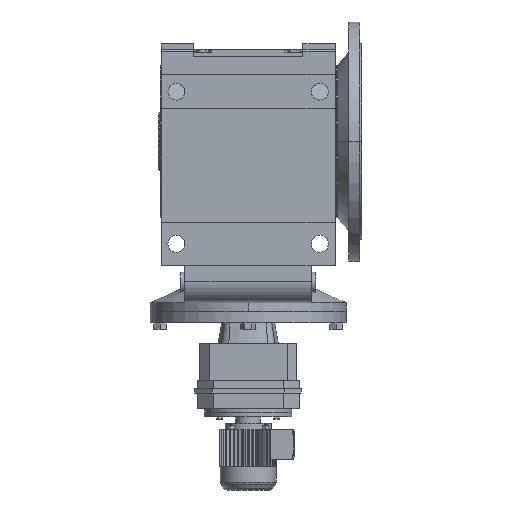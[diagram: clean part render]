
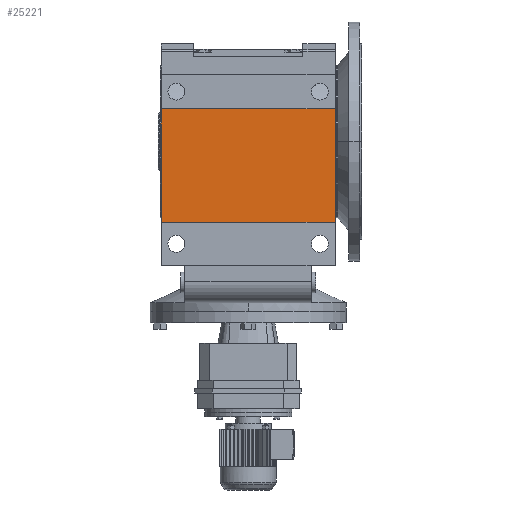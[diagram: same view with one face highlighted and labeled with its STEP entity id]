
A CAD part, front view. The second image highlights one B-rep face of the part: STEP entity #25221.
In plain terms, the highlighted planar face has unit normal (0, -1, 0).
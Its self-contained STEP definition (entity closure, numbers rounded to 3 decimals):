
#10111 = PLANE('',#10112);
#10112 = AXIS2_PLACEMENT_3D('',#10113,#10114,#10115);
#10113 = CARTESIAN_POINT('',(200.,-312.875,176.));
#10114 = DIRECTION('',(1.,0.,0.));
#10115 = DIRECTION('',(0.,0.,-1.));
#11318 = PLANE('',#11319);
#11319 = AXIS2_PLACEMENT_3D('',#11320,#11321,#11322);
#11320 = CARTESIAN_POINT('',(-200.,-312.875,176.));
#11321 = DIRECTION('',(1.,0.,0.));
#11322 = DIRECTION('',(0.,0.,-1.));
#16627 = VERTEX_POINT('',#16628);
#16628 = CARTESIAN_POINT('',(200.,-361.875,75.));
#16642 = PLANE('',#16643);
#16643 = AXIS2_PLACEMENT_3D('',#16644,#16645,#16646);
#16644 = CARTESIAN_POINT('',(200.,-361.875,75.));
#16645 = DIRECTION('',(0.,0.,1.));
#16646 = DIRECTION('',(1.,0.,0.));
#16654 = EDGE_CURVE('',#16627,#16655,#16657,.T.);
#16655 = VERTEX_POINT('',#16656);
#16656 = CARTESIAN_POINT('',(200.,-361.875,-185.));
#16657 = SURFACE_CURVE('',#16658,(#16662,#16669),.PCURVE_S1.);
#16658 = LINE('',#16659,#16660);
#16659 = CARTESIAN_POINT('',(200.,-361.875,75.));
#16660 = VECTOR('',#16661,1.);
#16661 = DIRECTION('',(0.,0.,-1.));
#16662 = PCURVE('',#10111,#16663);
#16663 = DEFINITIONAL_REPRESENTATION('',(#16664),#16668);
#16664 = LINE('',#16665,#16666);
#16665 = CARTESIAN_POINT('',(101.,-49.));
#16666 = VECTOR('',#16667,1.);
#16667 = DIRECTION('',(1.,0.));
#16668 = ( GEOMETRIC_REPRESENTATION_CONTEXT(2) 
PARAMETRIC_REPRESENTATION_CONTEXT() REPRESENTATION_CONTEXT('2D SPACE',''
  ) );
#16669 = PCURVE('',#16670,#16675);
#16670 = PLANE('',#16671);
#16671 = AXIS2_PLACEMENT_3D('',#16672,#16673,#16674);
#16672 = CARTESIAN_POINT('',(-145.5,-361.875,180.));
#16673 = DIRECTION('',(0.,-1.,0.));
#16674 = DIRECTION('',(0.,0.,-1.));
#16675 = DEFINITIONAL_REPRESENTATION('',(#16676),#16680);
#16676 = LINE('',#16677,#16678);
#16677 = CARTESIAN_POINT('',(105.,345.5));
#16678 = VECTOR('',#16679,1.);
#16679 = DIRECTION('',(1.,0.));
#16680 = ( GEOMETRIC_REPRESENTATION_CONTEXT(2) 
PARAMETRIC_REPRESENTATION_CONTEXT() REPRESENTATION_CONTEXT('2D SPACE',''
  ) );
#16698 = PLANE('',#16699);
#16699 = AXIS2_PLACEMENT_3D('',#16700,#16701,#16702);
#16700 = CARTESIAN_POINT('',(200.,-361.875,-185.));
#16701 = DIRECTION('',(0.,0.,-1.));
#16702 = DIRECTION('',(-1.,0.,0.));
#17887 = VERTEX_POINT('',#17888);
#17888 = CARTESIAN_POINT('',(-200.,-361.875,-185.));
#17909 = EDGE_CURVE('',#17910,#17887,#17912,.T.);
#17910 = VERTEX_POINT('',#17911);
#17911 = CARTESIAN_POINT('',(-200.,-361.875,75.));
#17912 = SURFACE_CURVE('',#17913,(#17917,#17924),.PCURVE_S1.);
#17913 = LINE('',#17914,#17915);
#17914 = CARTESIAN_POINT('',(-200.,-361.875,75.));
#17915 = VECTOR('',#17916,1.);
#17916 = DIRECTION('',(0.,0.,-1.));
#17917 = PCURVE('',#11318,#17918);
#17918 = DEFINITIONAL_REPRESENTATION('',(#17919),#17923);
#17919 = LINE('',#17920,#17921);
#17920 = CARTESIAN_POINT('',(101.,-49.));
#17921 = VECTOR('',#17922,1.);
#17922 = DIRECTION('',(1.,0.));
#17923 = ( GEOMETRIC_REPRESENTATION_CONTEXT(2) 
PARAMETRIC_REPRESENTATION_CONTEXT() REPRESENTATION_CONTEXT('2D SPACE',''
  ) );
#17924 = PCURVE('',#16670,#17925);
#17925 = DEFINITIONAL_REPRESENTATION('',(#17926),#17930);
#17926 = LINE('',#17927,#17928);
#17927 = CARTESIAN_POINT('',(105.,-54.5));
#17928 = VECTOR('',#17929,1.);
#17929 = DIRECTION('',(1.,0.));
#17930 = ( GEOMETRIC_REPRESENTATION_CONTEXT(2) 
PARAMETRIC_REPRESENTATION_CONTEXT() REPRESENTATION_CONTEXT('2D SPACE',''
  ) );
#24947 = EDGE_CURVE('',#16627,#17910,#24948,.T.);
#24948 = SURFACE_CURVE('',#24949,(#24953,#24960),.PCURVE_S1.);
#24949 = LINE('',#24950,#24951);
#24950 = CARTESIAN_POINT('',(200.,-361.875,75.));
#24951 = VECTOR('',#24952,1.);
#24952 = DIRECTION('',(-1.,0.,0.));
#24953 = PCURVE('',#16642,#24954);
#24954 = DEFINITIONAL_REPRESENTATION('',(#24955),#24959);
#24955 = LINE('',#24956,#24957);
#24956 = CARTESIAN_POINT('',(0.,0.));
#24957 = VECTOR('',#24958,1.);
#24958 = DIRECTION('',(-1.,0.));
#24959 = ( GEOMETRIC_REPRESENTATION_CONTEXT(2) 
PARAMETRIC_REPRESENTATION_CONTEXT() REPRESENTATION_CONTEXT('2D SPACE',''
  ) );
#24960 = PCURVE('',#16670,#24961);
#24961 = DEFINITIONAL_REPRESENTATION('',(#24962),#24966);
#24962 = LINE('',#24963,#24964);
#24963 = CARTESIAN_POINT('',(105.,345.5));
#24964 = VECTOR('',#24965,1.);
#24965 = DIRECTION('',(0.,-1.));
#24966 = ( GEOMETRIC_REPRESENTATION_CONTEXT(2) 
PARAMETRIC_REPRESENTATION_CONTEXT() REPRESENTATION_CONTEXT('2D SPACE',''
  ) );
#25047 = EDGE_CURVE('',#16655,#17887,#25048,.T.);
#25048 = SURFACE_CURVE('',#25049,(#25053,#25060),.PCURVE_S1.);
#25049 = LINE('',#25050,#25051);
#25050 = CARTESIAN_POINT('',(200.,-361.875,-185.));
#25051 = VECTOR('',#25052,1.);
#25052 = DIRECTION('',(-1.,0.,0.));
#25053 = PCURVE('',#16698,#25054);
#25054 = DEFINITIONAL_REPRESENTATION('',(#25055),#25059);
#25055 = LINE('',#25056,#25057);
#25056 = CARTESIAN_POINT('',(0.,0.));
#25057 = VECTOR('',#25058,1.);
#25058 = DIRECTION('',(1.,0.));
#25059 = ( GEOMETRIC_REPRESENTATION_CONTEXT(2) 
PARAMETRIC_REPRESENTATION_CONTEXT() REPRESENTATION_CONTEXT('2D SPACE',''
  ) );
#25060 = PCURVE('',#16670,#25061);
#25061 = DEFINITIONAL_REPRESENTATION('',(#25062),#25066);
#25062 = LINE('',#25063,#25064);
#25063 = CARTESIAN_POINT('',(365.,345.5));
#25064 = VECTOR('',#25065,1.);
#25065 = DIRECTION('',(0.,-1.));
#25066 = ( GEOMETRIC_REPRESENTATION_CONTEXT(2) 
PARAMETRIC_REPRESENTATION_CONTEXT() REPRESENTATION_CONTEXT('2D SPACE',''
  ) );
#25221 = ADVANCED_FACE('',(#25222),#16670,.T.);
#25222 = FACE_BOUND('',#25223,.T.);
#25223 = EDGE_LOOP('',(#25224,#25225,#25226,#25227));
#25224 = ORIENTED_EDGE('',*,*,#17909,.T.);
#25225 = ORIENTED_EDGE('',*,*,#25047,.F.);
#25226 = ORIENTED_EDGE('',*,*,#16654,.F.);
#25227 = ORIENTED_EDGE('',*,*,#24947,.T.);
